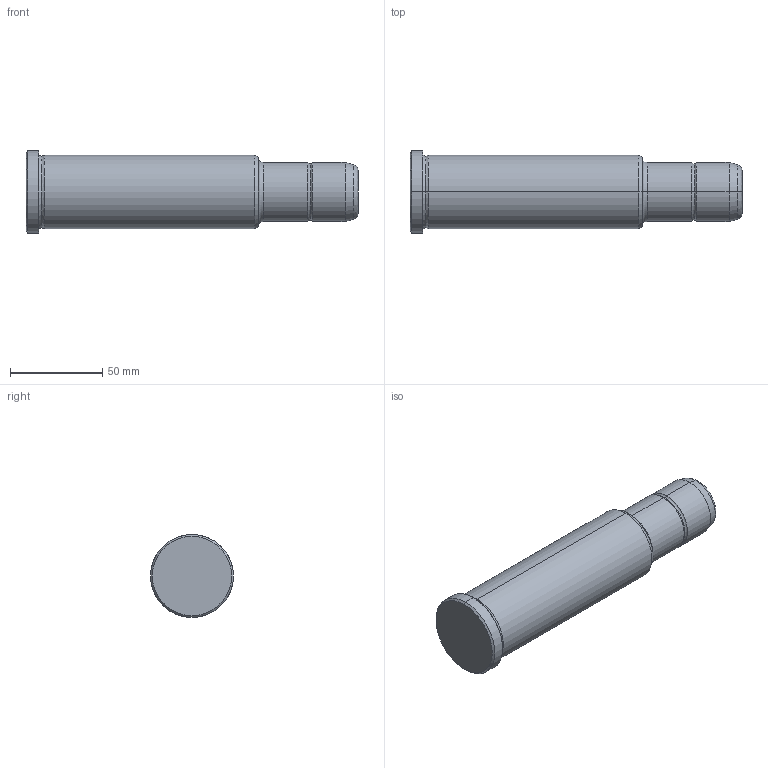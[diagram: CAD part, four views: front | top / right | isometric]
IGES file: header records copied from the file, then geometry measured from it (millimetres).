
Start section: START RECORD GO HERE.
Global section: file name: 351-32X126X180.igs; native system: DASSAULT SYSTEMES CATIA V5 R20 - www.3ds.com; preprocessor: CATIA Version 5 Release 20 ; author: Utente; organization: NB04-ASUS; date: 20210915.142746; units: millimetre
Bounding box: 180 x 45 x 45 mm (x, y, z)
Surface area: 24070 mm2 (no closed solid volume)
Topology: 0 solids, 0 shells, 30 faces, 172 edges, 172 vertices
Faces by surface type: revolution 26, plane 4
